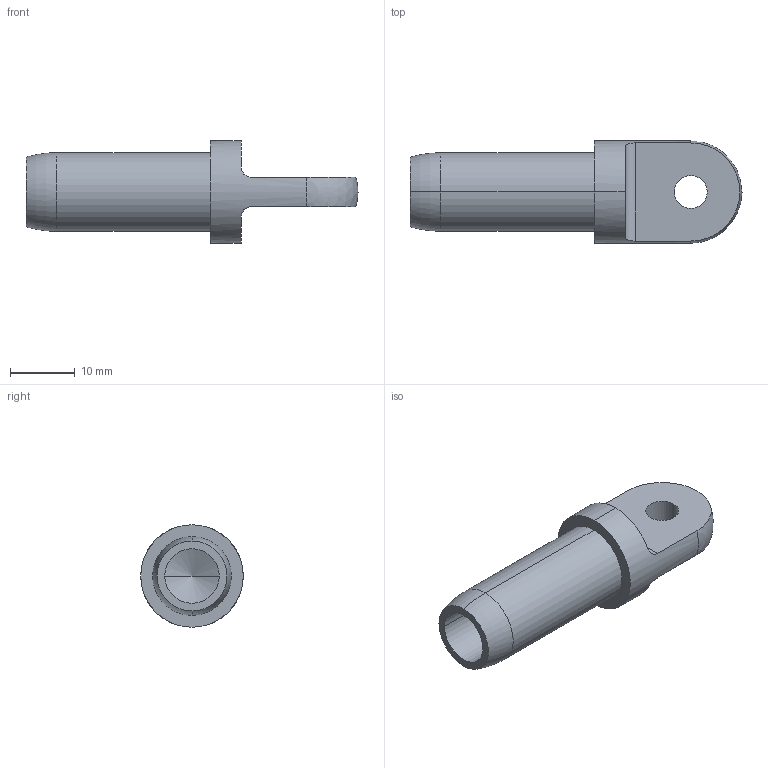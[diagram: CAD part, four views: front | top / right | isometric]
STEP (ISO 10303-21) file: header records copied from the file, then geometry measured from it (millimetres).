
FILE_DESCRIPTION (( 'STEP AP214' ), '1' );
FILE_NAME ('0.500 In. Male Clevis Connector.STEP', '2014-08-07T18:49:08', ( 'ydmin' ), ( 'Microsoft' ), 'SwSTEP 2.0', 'SolidWorks 2013', '' );
FILE_SCHEMA (( 'AUTOMOTIVE_DESIGN' ));
Length unit declared in the file: inch
Products named in the file (1): 0.500 In. Male Clevis Connector
Bounding box: 51.44 x 15.88 x 15.88 mm (x, y, z)
Volume: 3643.1 mm3; surface area: 3128 mm2
Topology: 1 solids, 1 shells, 22 faces, 58 edges, 36 vertices
Faces by surface type: cylinder 10, plane 6, torus 2, sphere 2, cone 2
Entity records: 1028 total; most frequent: CARTESIAN_POINT 165, DIRECTION 124, ORIENTED_EDGE 104, AXIS2_PLACEMENT_3D 53, EDGE_CURVE 52, VERTEX_POINT 34, CIRCLE 30, EDGE_LOOP 26
